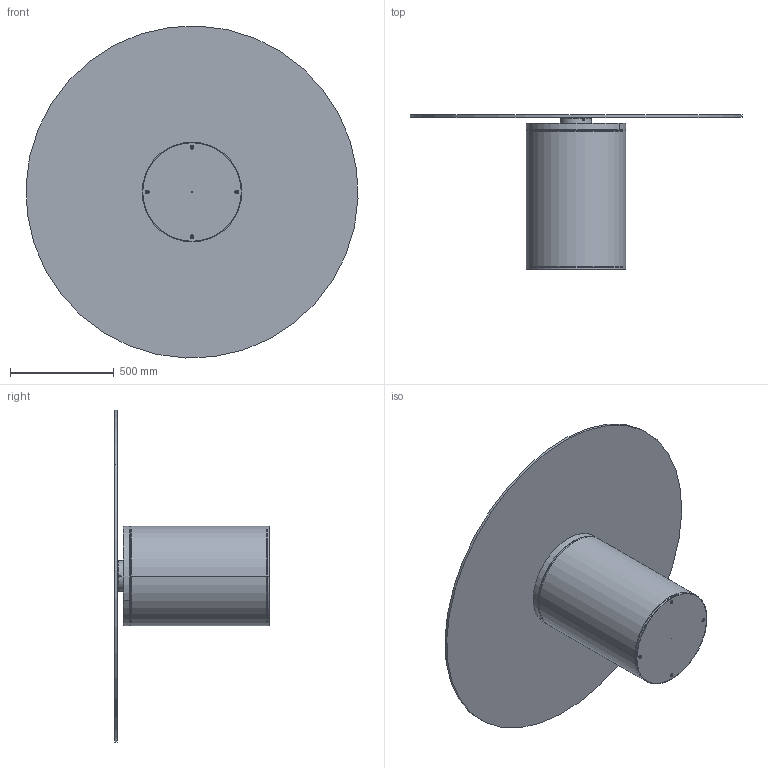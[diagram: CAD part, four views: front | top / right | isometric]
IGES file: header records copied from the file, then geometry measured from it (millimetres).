
Start section: SolidWorks IGES file using analytic representation for surfaces
Global section: file name: Y:\eforma\TECNICO\SOLIDWORKS\E-FORMA\1-TAVOLI\CILINDRO\02 parts\CI08G.IGS; native system: SolidWorks 2022; preprocessor: SolidWorks 2022; author: eforma.tech; date: 240808.085019; units: millimetre
Bounding box: 1598.81 x 744 x 1598.81 mm (x, y, z)
Volume: 35523252.9 mm3; surface area: 7352346 mm2
Topology: 26 solids, 26 shells, 699 faces, 1576 edges, 908 vertices
Faces by surface type: revolution 408, plane 282, bspline 9
